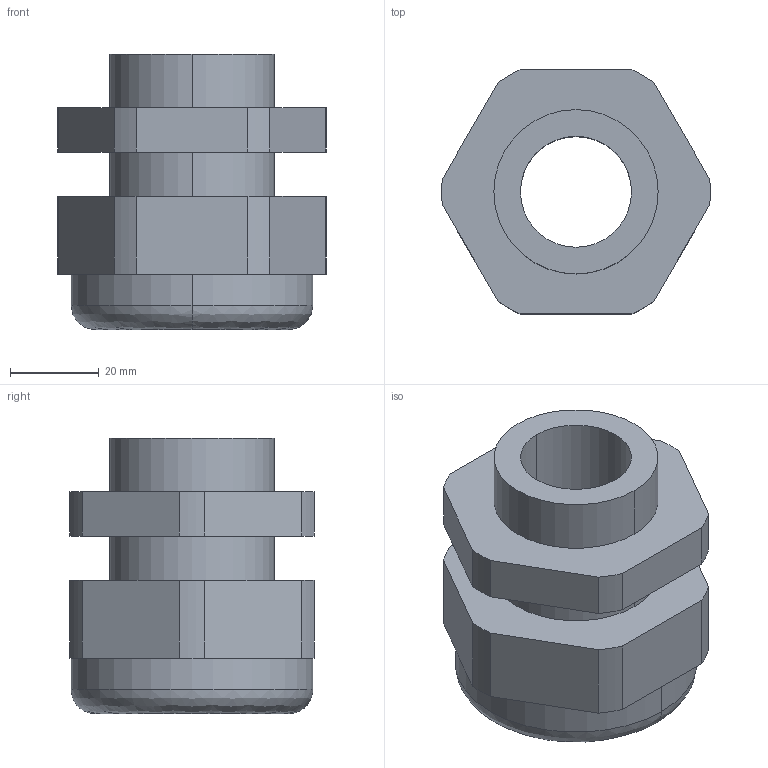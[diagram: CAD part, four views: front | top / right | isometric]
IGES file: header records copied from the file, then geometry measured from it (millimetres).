
Start section:  PTC IGES file: U:\ds\zip\sf\m50.igs
Global section: file name: U:\ds\zip\sf\m50.igs; native system: Pro/ENGINEER by Parametric Technology Corporation; preprocessor: 2003450; author: ds; organization: Unknown; date: 040803.082146; units: millimetre
Bounding box: 60.47 x 55 x 62 mm (x, y, z)
Surface area: 21495.4 mm2 (no closed solid volume)
Topology: 0 solids, 0 shells, 40 faces, 200 edges, 200 vertices
Faces by surface type: revolution 22, bspline 18
